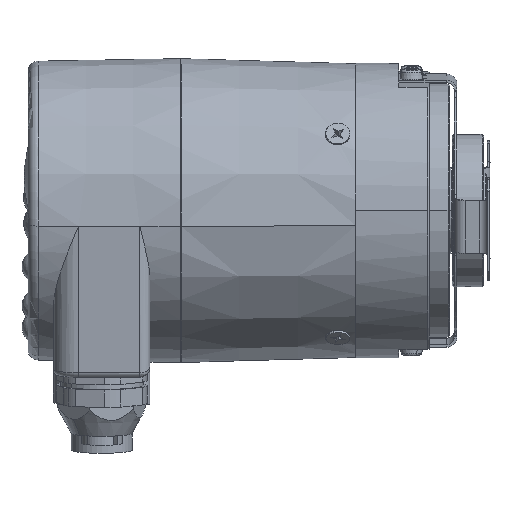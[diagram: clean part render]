
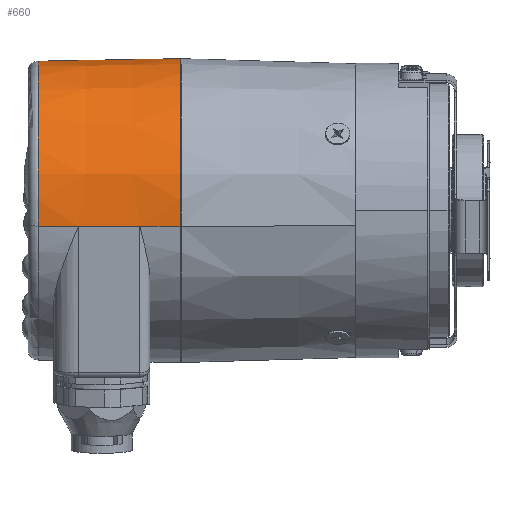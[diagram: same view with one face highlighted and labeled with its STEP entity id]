
A CAD part, top view. The second image highlights one B-rep face of the part: STEP entity #660.
In plain terms, the highlighted conical face has half-angle 1 degrees and reference radius 30 mm.
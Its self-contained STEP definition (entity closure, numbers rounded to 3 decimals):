
#660 = ADVANCED_FACE ( 'NONE', ( #14491 ), #14472, .T. ) ;
#686 = EDGE_LOOP ( 'NONE', ( #687, #756, #727, #730, #733, #741, #744, #763 ) ) ;
#687 = ORIENTED_EDGE ( 'NONE', *, *, #753, .T. ) ;
#688 = VERTEX_POINT ( 'NONE', #14624 ) ;
#727 = ORIENTED_EDGE ( 'NONE', *, *, #728, .T. ) ;
#728 = EDGE_CURVE ( 'NONE', #758, #729, #14752, .T. ) ;
#729 = VERTEX_POINT ( 'NONE', #14802 ) ;
#730 = ORIENTED_EDGE ( 'NONE', *, *, #731, .T. ) ;
#731 = EDGE_CURVE ( 'NONE', #729, #732, #14801, .T. ) ;
#732 = VERTEX_POINT ( 'NONE', #14797 ) ;
#733 = ORIENTED_EDGE ( 'NONE', *, *, #734, .F. ) ;
#734 = EDGE_CURVE ( 'NONE', #735, #732, #14796, .T. ) ;
#735 = VERTEX_POINT ( 'NONE', #14791 ) ;
#741 = ORIENTED_EDGE ( 'NONE', *, *, #742, .F. ) ;
#742 = EDGE_CURVE ( 'NONE', #743, #735, #14834, .T. ) ;
#743 = VERTEX_POINT ( 'NONE', #14830 ) ;
#744 = ORIENTED_EDGE ( 'NONE', *, *, #762, .F. ) ;
#745 = VERTEX_POINT ( 'NONE', #14829 ) ;
#753 = EDGE_CURVE ( 'NONE', #688, #754, #14824, .T. ) ;
#754 = VERTEX_POINT ( 'NONE', #14819 ) ;
#756 = ORIENTED_EDGE ( 'NONE', *, *, #757, .T. ) ;
#757 = EDGE_CURVE ( 'NONE', #754, #758, #14814, .T. ) ;
#758 = VERTEX_POINT ( 'NONE', #14810 ) ;
#762 = EDGE_CURVE ( 'NONE', #745, #743, #14865, .T. ) ;
#763 = ORIENTED_EDGE ( 'NONE', *, *, #764, .F. ) ;
#764 = EDGE_CURVE ( 'NONE', #688, #745, #14854, .T. ) ;
#14469 = DIRECTION ( 'NONE',  ( 0., 0.105, -0.995 ) ) ;
#14470 = DIRECTION ( 'NONE',  ( 1., 0., 0. ) ) ;
#14471 = AXIS2_PLACEMENT_3D ( 'NONE', #14475, #14470, #14469 ) ;
#14472 = CONICAL_SURFACE ( 'NONE', #14471, 30., 0.017 ) ;
#14475 = CARTESIAN_POINT ( 'NONE',  ( -26.295, 0.928, -0.332 ) ) ;
#14491 = FACE_OUTER_BOUND ( 'NONE', #686, .T. ) ;
#14624 = CARTESIAN_POINT ( 'NONE',  ( -54.33, 4.012, -29.681 ) ) ;
#14751 = CARTESIAN_POINT ( 'NONE',  ( -26.819, -2.207, 29.495 ) ) ;
#14752 = LINE ( 'NONE', #14751, #14804 ) ;
#14791 = CARTESIAN_POINT ( 'NONE',  ( -26.295, 4.064, -30.167 ) ) ;
#14792 = DIRECTION ( 'NONE',  ( 0., 0.105, -0.995 ) ) ;
#14793 = DIRECTION ( 'NONE',  ( 1., 0., 0. ) ) ;
#14794 = CARTESIAN_POINT ( 'NONE',  ( -26.295, 0.928, -0.332 ) ) ;
#14795 = AXIS2_PLACEMENT_3D ( 'NONE', #14794, #14793, #14792 ) ;
#14796 = CIRCLE ( 'NONE', #14795, 30. ) ;
#14797 = CARTESIAN_POINT ( 'NONE',  ( -26.295, -2.208, 29.504 ) ) ;
#14798 = DIRECTION ( 'NONE',  ( 1., -0.002, 0.017 ) ) ;
#14799 = VECTOR ( 'NONE', #14798, 1000. ) ;
#14800 = CARTESIAN_POINT ( 'NONE',  ( -26.295, -2.208, 29.504 ) ) ;
#14801 = LINE ( 'NONE', #14800, #14799 ) ;
#14802 = CARTESIAN_POINT ( 'NONE',  ( -34.33, -2.194, 29.365 ) ) ;
#14803 = DIRECTION ( 'NONE',  ( 1., -0.002, 0.017 ) ) ;
#14804 = VECTOR ( 'NONE', #14803, 1000. ) ;
#14810 = CARTESIAN_POINT ( 'NONE',  ( -46.383, -2.172, 29.155 ) ) ;
#14811 = DIRECTION ( 'NONE',  ( 1., -0.002, 0.017 ) ) ;
#14812 = VECTOR ( 'NONE', #14811, 1000. ) ;
#14813 = CARTESIAN_POINT ( 'NONE',  ( -26.295, -2.208, 29.504 ) ) ;
#14814 = LINE ( 'NONE', #14813, #14812 ) ;
#14819 = CARTESIAN_POINT ( 'NONE',  ( -54.33, -2.157, 29.017 ) ) ;
#14820 = DIRECTION ( 'NONE',  ( 0., -0.105, 0.995 ) ) ;
#14821 = DIRECTION ( 'NONE',  ( 1., 0., 0. ) ) ;
#14822 = CARTESIAN_POINT ( 'NONE',  ( -54.33, 0.928, -0.332 ) ) ;
#14823 = AXIS2_PLACEMENT_3D ( 'NONE', #14822, #14821, #14820 ) ;
#14824 = CIRCLE ( 'NONE', #14823, 29.511 ) ;
#14829 = CARTESIAN_POINT ( 'NONE',  ( -46.383, 4.027, -29.819 ) ) ;
#14830 = CARTESIAN_POINT ( 'NONE',  ( -34.33, 4.049, -30.028 ) ) ;
#14831 = DIRECTION ( 'NONE',  ( 1., 0.002, -0.017 ) ) ;
#14832 = VECTOR ( 'NONE', #14831, 1000. ) ;
#14833 = CARTESIAN_POINT ( 'NONE',  ( -26.295, 4.064, -30.167 ) ) ;
#14834 = LINE ( 'NONE', #14833, #14832 ) ;
#14851 = DIRECTION ( 'NONE',  ( 1., 0.002, -0.017 ) ) ;
#14852 = VECTOR ( 'NONE', #14851, 1000. ) ;
#14853 = CARTESIAN_POINT ( 'NONE',  ( -26.295, 4.064, -30.167 ) ) ;
#14854 = LINE ( 'NONE', #14853, #14852 ) ;
#14856 = DIRECTION ( 'NONE',  ( 1., 0.002, -0.017 ) ) ;
#14863 = VECTOR ( 'NONE', #14856, 1000. ) ;
#14864 = CARTESIAN_POINT ( 'NONE',  ( -26.819, 4.063, -30.158 ) ) ;
#14865 = LINE ( 'NONE', #14864, #14863 ) ;
